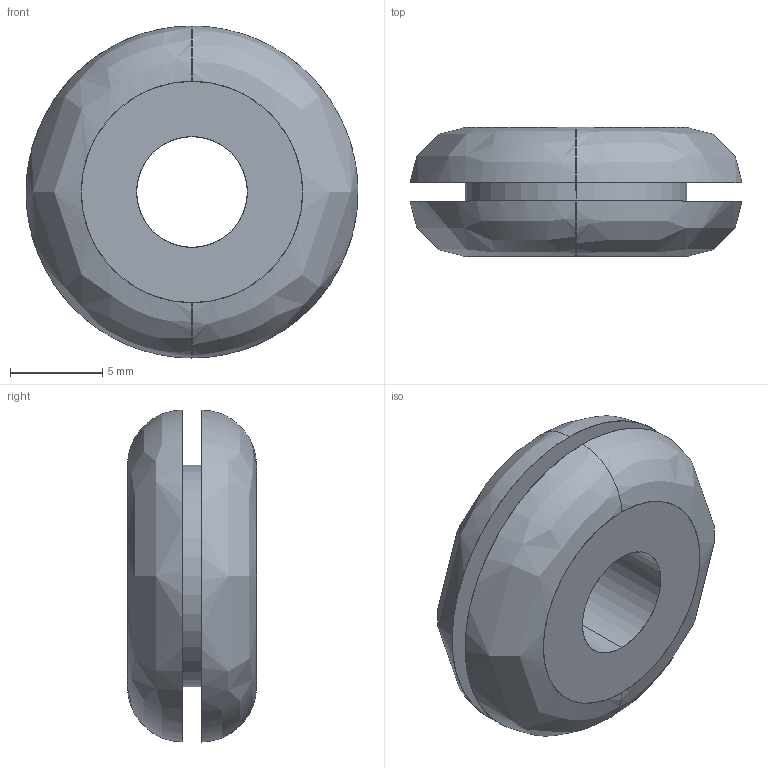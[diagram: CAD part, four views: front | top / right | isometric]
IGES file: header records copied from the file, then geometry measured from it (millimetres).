
Start section: SolidWorks IGES FILE using analytic representation for surfaces
Global section: file name: \\Ls-wvld1d\share\シブタニ\3D設計\ゴム\B-6-1\B-6-1.IGS; native system: SolidWorks 2003 by SolidWorks Corporation; preprocessor: Version 5.3; author: user; date: 130714.160209; units: millimetre
Bounding box: 18 x 7 x 18 mm (x, y, z)
Surface area: 1090.4 mm2 (no closed solid volume)
Topology: 0 solids, 0 shells, 12 faces, 288 edges, 288 vertices
Faces by surface type: bspline 8, revolution 4
